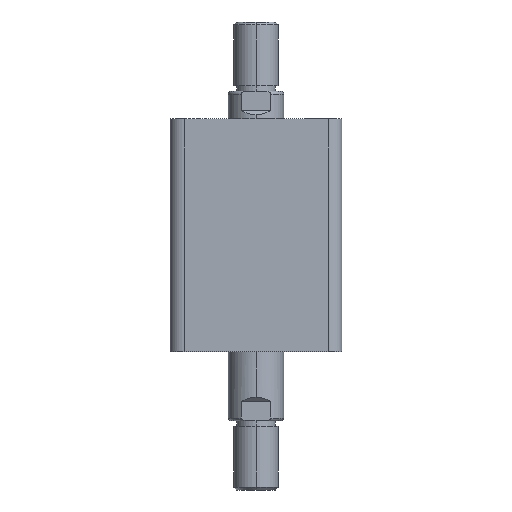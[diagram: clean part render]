
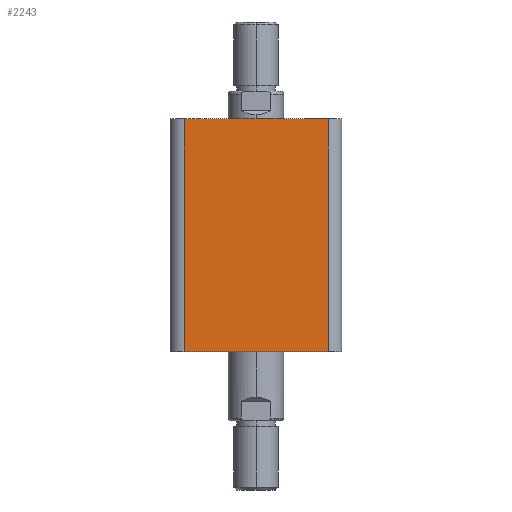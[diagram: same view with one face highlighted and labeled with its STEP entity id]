
A CAD part, left-side view. The second image highlights one B-rep face of the part: STEP entity #2243.
In plain terms, the highlighted planar face has unit normal (-1, 0, 0).
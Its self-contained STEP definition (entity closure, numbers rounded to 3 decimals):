
#16 = VERTEX_POINT ( 'NONE', #309 ) ;
#23 = VERTEX_POINT ( 'NONE', #316 ) ;
#309 = CARTESIAN_POINT ( 'NONE',  ( -31., 26., 0. ) ) ;
#316 = CARTESIAN_POINT ( 'NONE',  ( -31., -26., 0. ) ) ;
#455 = EDGE_CURVE ( 'NONE', #16, #23, #1519, .T. ) ;
#456 = EDGE_CURVE ( 'NONE', #23, #1062, #1515, .T. ) ;
#458 = EDGE_CURVE ( 'NONE', #1067, #1062, #1523, .T. ) ;
#460 = EDGE_CURVE ( 'NONE', #1067, #16, #1525, .T. ) ;
#795 = EDGE_LOOP ( 'NONE', ( #833, #832, #831, #830 ) ) ;
#830 = ORIENTED_EDGE ( 'NONE', *, *, #460, .T. ) ;
#831 = ORIENTED_EDGE ( 'NONE', *, *, #458, .F. ) ;
#832 = ORIENTED_EDGE ( 'NONE', *, *, #456, .T. ) ;
#833 = ORIENTED_EDGE ( 'NONE', *, *, #455, .T. ) ;
#1062 = VERTEX_POINT ( 'NONE', #1096 ) ;
#1067 = VERTEX_POINT ( 'NONE', #1101 ) ;
#1096 = CARTESIAN_POINT ( 'NONE',  ( -31., -26., 84. ) ) ;
#1101 = CARTESIAN_POINT ( 'NONE',  ( -31., 26., 84. ) ) ;
#1193 = CARTESIAN_POINT ( 'NONE',  ( -31., 31., 84. ) ) ;
#1201 = PLANE ( 'NONE',  #3008 ) ;
#1203 = DIRECTION ( 'NONE',  ( 1., 0., 0. ) ) ;
#1204 = DIRECTION ( 'NONE',  ( 0., 1., 0. ) ) ;
#1515 = LINE ( 'NONE', #2479, #1524 ) ;
#1519 = LINE ( 'NONE', #2490, #1522 ) ;
#1522 = VECTOR ( 'NONE', #2491, 1000. ) ;
#1523 = LINE ( 'NONE', #2493, #1526 ) ;
#1524 = VECTOR ( 'NONE', #2492, 1000. ) ;
#1525 = LINE ( 'NONE', #2495, #1528 ) ;
#1526 = VECTOR ( 'NONE', #2494, 1000. ) ;
#1528 = VECTOR ( 'NONE', #2496, 1000. ) ;
#2243 = ADVANCED_FACE ( 'NONE', ( #3235 ), #1201, .F. ) ;
#2479 = CARTESIAN_POINT ( 'NONE',  ( -31., -26., 84. ) ) ;
#2490 = CARTESIAN_POINT ( 'NONE',  ( -31., 31., 0. ) ) ;
#2491 = DIRECTION ( 'NONE',  ( 0., -1., 0. ) ) ;
#2492 = DIRECTION ( 'NONE',  ( 0., 0., 1. ) ) ;
#2493 = CARTESIAN_POINT ( 'NONE',  ( -31., 31., 84. ) ) ;
#2494 = DIRECTION ( 'NONE',  ( 0., -1., 0. ) ) ;
#2495 = CARTESIAN_POINT ( 'NONE',  ( -31., 26., 84. ) ) ;
#2496 = DIRECTION ( 'NONE',  ( 0., 0., -1. ) ) ;
#3008 = AXIS2_PLACEMENT_3D ( 'NONE', #1193, #1203, #1204 ) ;
#3235 = FACE_OUTER_BOUND ( 'NONE', #795, .T. ) ;
